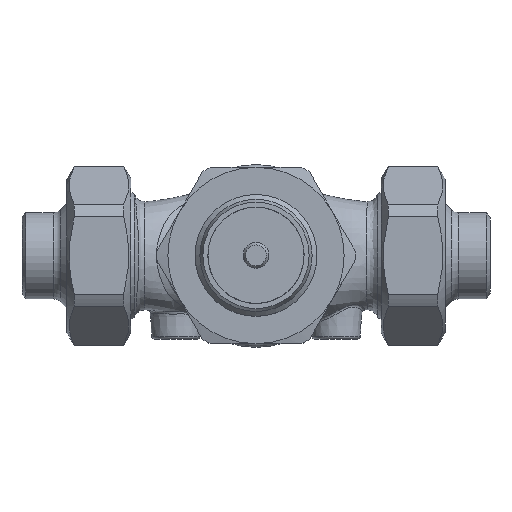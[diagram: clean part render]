
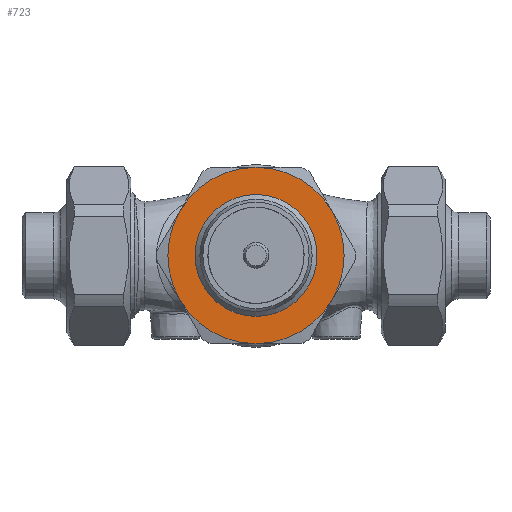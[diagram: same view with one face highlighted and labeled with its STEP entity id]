
A CAD part, top view. The second image highlights one B-rep face of the part: STEP entity #723.
In plain terms, the highlighted planar face has unit normal (0, 0, 1).
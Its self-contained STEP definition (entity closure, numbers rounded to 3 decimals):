
#277=PLANE('',#2854);
#448=CIRCLE('',#2847,27.5);
#449=CIRCLE('',#2848,27.5);
#450=CIRCLE('',#2849,27.5);
#451=CIRCLE('',#2850,27.5);
#452=CIRCLE('',#2851,27.5);
#453=CIRCLE('',#2852,27.5);
#454=CIRCLE('',#2853,19.);
#723=ADVANCED_FACE('',(#933,#934),#277,.T.);
#933=FACE_BOUND('',#1176,.T.);
#934=FACE_BOUND('',#1177,.T.);
#1176=EDGE_LOOP('',(#1598,#1599,#1600,#1601,#1602,#1603));
#1177=EDGE_LOOP('',(#1604));
#1598=ORIENTED_EDGE('',*,*,#2424,.T.);
#1599=ORIENTED_EDGE('',*,*,#2425,.T.);
#1600=ORIENTED_EDGE('',*,*,#2426,.T.);
#1601=ORIENTED_EDGE('',*,*,#2427,.T.);
#1602=ORIENTED_EDGE('',*,*,#2428,.T.);
#1603=ORIENTED_EDGE('',*,*,#2429,.T.);
#1604=ORIENTED_EDGE('',*,*,#2430,.T.);
#2145=VERTEX_POINT('',#10017);
#2146=VERTEX_POINT('',#10018);
#2147=VERTEX_POINT('',#10020);
#2148=VERTEX_POINT('',#10022);
#2149=VERTEX_POINT('',#10024);
#2150=VERTEX_POINT('',#10026);
#2151=VERTEX_POINT('',#10029);
#2424=EDGE_CURVE('',#2145,#2146,#448,.T.);
#2425=EDGE_CURVE('',#2146,#2147,#449,.T.);
#2426=EDGE_CURVE('',#2147,#2148,#450,.T.);
#2427=EDGE_CURVE('',#2148,#2149,#451,.T.);
#2428=EDGE_CURVE('',#2149,#2150,#452,.T.);
#2429=EDGE_CURVE('',#2150,#2145,#453,.T.);
#2430=EDGE_CURVE('',#2151,#2151,#454,.T.);
#2847=AXIS2_PLACEMENT_3D('',#10016,#3283,#3284);
#2848=AXIS2_PLACEMENT_3D('',#10019,#3285,#3286);
#2849=AXIS2_PLACEMENT_3D('',#10021,#3287,#3288);
#2850=AXIS2_PLACEMENT_3D('',#10023,#3289,#3290);
#2851=AXIS2_PLACEMENT_3D('',#10025,#3291,#3292);
#2852=AXIS2_PLACEMENT_3D('',#10027,#3293,#3294);
#2853=AXIS2_PLACEMENT_3D('',#10028,#3295,#3296);
#2854=AXIS2_PLACEMENT_3D('',#10030,#3297,#3298);
#3283=DIRECTION('',(0.,0.,1.));
#3284=DIRECTION('',(-1.,0.,0.));
#3285=DIRECTION('',(0.,0.,1.));
#3286=DIRECTION('',(-1.,0.,0.));
#3287=DIRECTION('',(0.,0.,1.));
#3288=DIRECTION('',(-1.,0.,0.));
#3289=DIRECTION('',(0.,0.,1.));
#3290=DIRECTION('',(-1.,0.,0.));
#3291=DIRECTION('',(0.,0.,1.));
#3292=DIRECTION('',(-1.,0.,0.));
#3293=DIRECTION('',(0.,0.,1.));
#3294=DIRECTION('',(-1.,0.,0.));
#3295=DIRECTION('',(0.,0.,-1.));
#3296=DIRECTION('',(1.,0.,0.));
#3297=DIRECTION('',(0.,0.,1.));
#3298=DIRECTION('',(-1.,0.,0.));
#10016=CARTESIAN_POINT('',(0.,0.,48.));
#10017=CARTESIAN_POINT('',(-23.816,-13.75,48.));
#10018=CARTESIAN_POINT('',(0.,-27.5,48.));
#10019=CARTESIAN_POINT('',(0.,0.,48.));
#10020=CARTESIAN_POINT('',(23.816,-13.75,48.));
#10021=CARTESIAN_POINT('',(0.,0.,48.));
#10022=CARTESIAN_POINT('',(23.816,13.75,48.));
#10023=CARTESIAN_POINT('',(0.,0.,48.));
#10024=CARTESIAN_POINT('',(0.,27.5,48.));
#10025=CARTESIAN_POINT('',(0.,0.,48.));
#10026=CARTESIAN_POINT('',(-23.816,13.75,48.));
#10027=CARTESIAN_POINT('',(0.,0.,48.));
#10028=CARTESIAN_POINT('',(0.,0.,48.));
#10029=CARTESIAN_POINT('',(19.,0.,48.));
#10030=CARTESIAN_POINT('',(-19.5,0.,48.));
